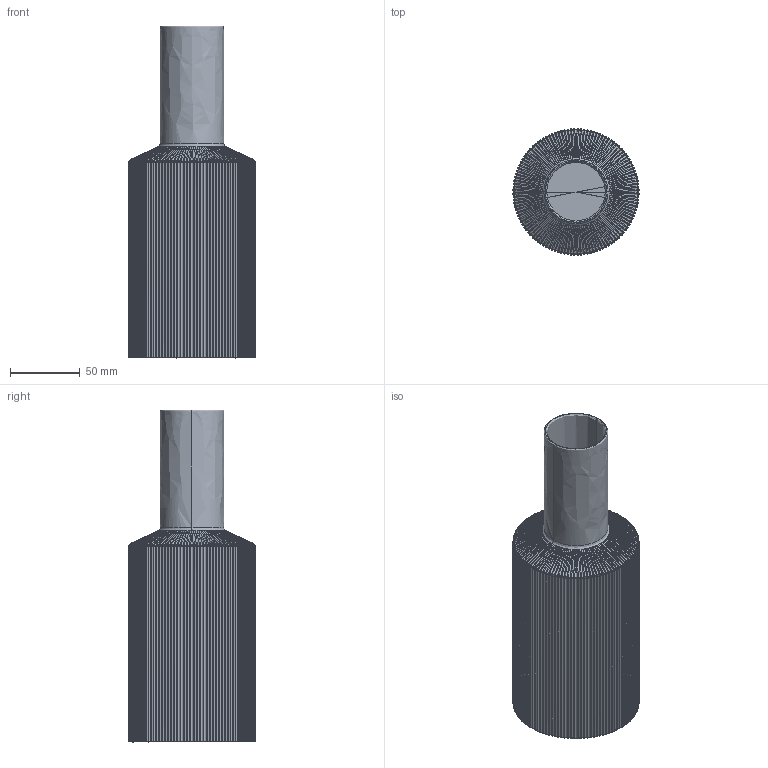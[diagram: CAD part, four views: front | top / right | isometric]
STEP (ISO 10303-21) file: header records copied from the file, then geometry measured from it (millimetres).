
FILE_DESCRIPTION(/* description */ (''),/* implementation_level */ '2;1');
FILE_NAME(/* name */ 'Ripple carafe_3D',/* time_stamp */ '2023-11-22T10:57:08+01:00',/* author */ (''),/* organization */ (''),/* preprocessor_version */ 'ST-DEVELOPER v16.5',/* originating_system */ 'Rhino 7.34',/* authorisation */ '');
FILE_SCHEMA (('CONFIG_CONTROL_DESIGN'));
Length unit declared in the file: millimetre
Products named in the file (1): Document
Bounding box: 90.15 x 90.15 x 237.21 mm (x, y, z)
Surface area: 141600.2 mm2 (no closed solid volume)
Topology: 0 solids, 5 shells, 734 faces, 2196 edges, 1462 vertices
Faces by surface type: bspline 370, cylinder 240, plane 124
Entity records: 50212 total; most frequent: CARTESIAN_POINT 37942, ORIENTED_EDGE 3896, EDGE_CURVE 2194, VERTEX_POINT 1462, B_SPLINE_CURVE_WITH_KNOTS 1324, ADVANCED_FACE 734, FACE_OUTER_BOUND 734, EDGE_LOOP 734
